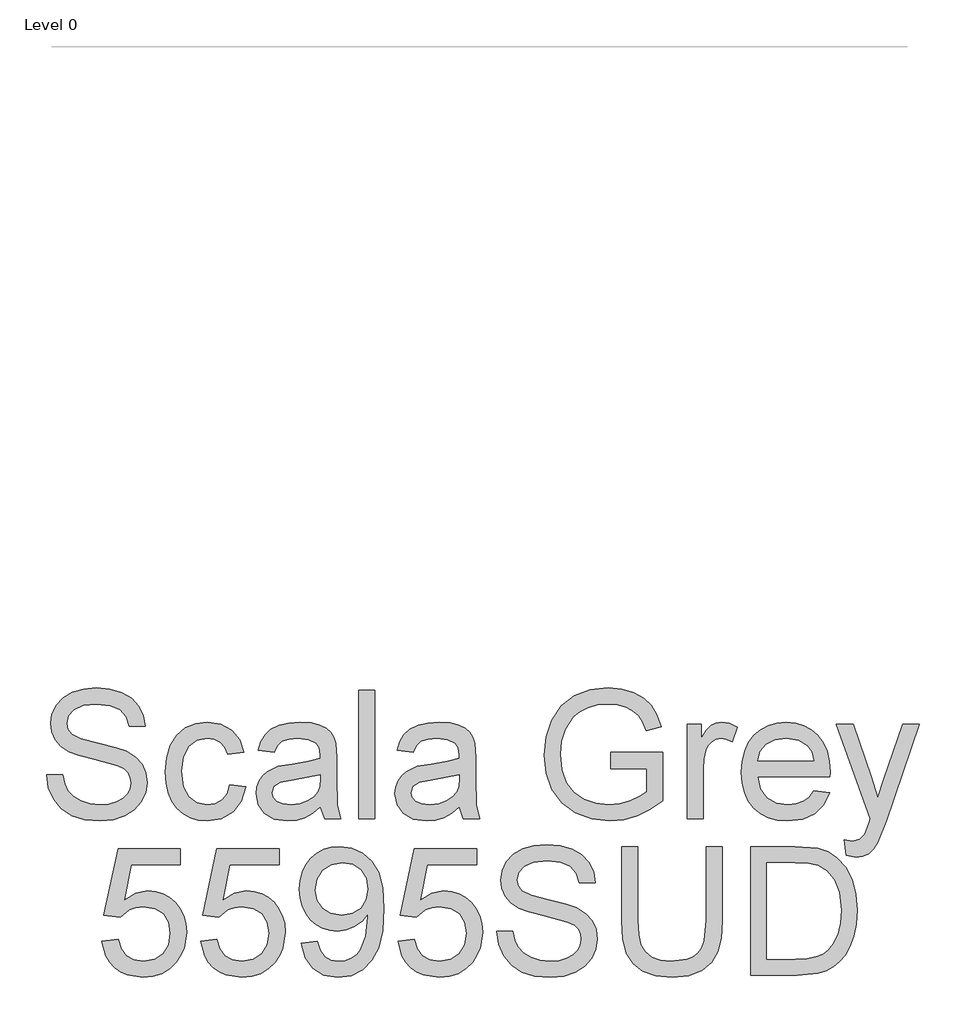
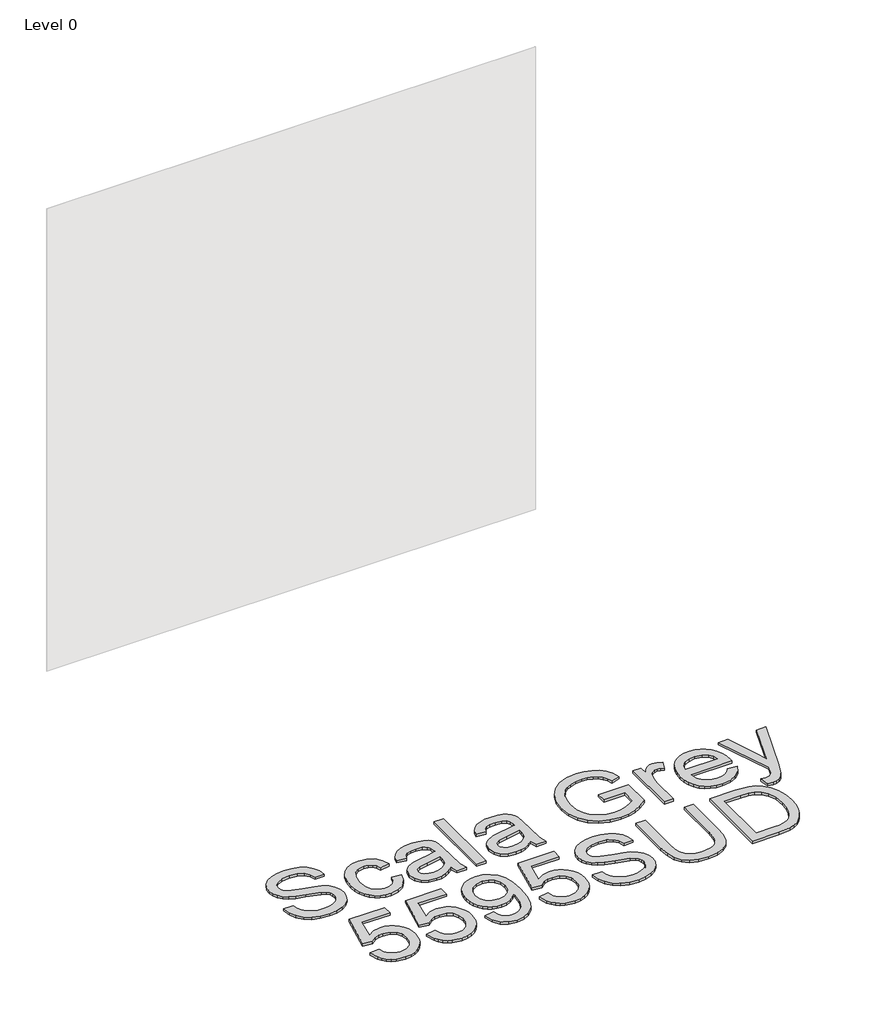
# One storey, part 15 of 29: 1 proxy.
"""IFC4 building model written with IfcOpenShell, lengths in millimetres."""

from ifc_helpers import new_model, si_unit, origin, origin_with_axes, place, context, project, spatial, polyline, outline, extrude, element, save

model = new_model("IFC4")

# Units and contexts
model_context = context("Model", 3, world=origin())
ifc_project = project(units=[si_unit("LENGTHUNIT", "METRE", prefix="MILLI")], contexts=[model_context])

# Site, building, storey
site = spatial("IfcSite", under=ifc_project)
building = spatial("IfcBuilding", under=site)
storey = spatial("IfcBuildingStorey", under=building, Name="Level 0", Elevation=0.0)

# Proxy
placement = place(None, origin())
element("IfcBuildingElementProxy", 1, Name="300mm Arial", ObjectType="300mm Arial", at=placement, inside=storey, context=model_context, shape_type="SweptSolid", body=[
    extrude(outline(polyline([(4636.930693, -16909.2649241), (4674.6018093, -16909.2649241), (4678.9244227, -16930.1698185), (4686.7419151, -16946.9728286), (4698.9372033, -16960.308551), (4716.3932039, -16970.8115819), (4737.7303596, -16977.6265959), (4761.5691129, -16979.8982672), (4782.5567808, -16978.1784189), (4800.9324864, -16973.0188739), (4815.8225102, -16964.8518936), (4826.3531323, -16954.1097394), (4832.6163233, -16941.7764955), (4834.7040536, -16928.8362463), (4833.1405551, -16916.2270909), (4828.4500597, -16905.3285868), (4818.921916, -16896.0303694), (4802.8454728, -16888.222074), (4747.9942673, -16873.837888), (4711.987817, -16864.3189414), (4688.9492071, -16855.2598472), (4670.1964224, -16842.5863125), (4656.9066853, -16827.2272392), (4648.9880254, -16809.5137211), (4646.348472, -16789.7768521), (4649.6134247, -16767.7131294), (4659.4082829, -16747.1393289), (4675.475529, -16729.7017223), (4697.5576458, -16717.0465817), (4724.0635435, -16709.3486509), (4753.4021326, -16706.782674), (4785.187137, -16709.4682126), (4812.9990159, -16717.5248283), (4835.8444878, -16730.7869742), (4852.7302713, -16749.0891034), (4863.4172433, -16771.2907818), (4867.6662803, -16796.2515752), (4829.995164, -16796.2515752), (4823.0789825, -16773.7739853), (4808.6580083, -16757.5503893), (4786.1252361, -16747.7279401), (4754.8736606, -16744.4537903), (4722.8863211, -16747.6911519), (4700.9421601, -16757.4032365), (4688.2502313, -16771.695452), (4684.0195883, -16788.6732061), (4687.0178266, -16803.1493626), (4696.0125414, -16814.7928278), (4717.2761207, -16825.2038882), (4757.522411, -16835.8356779), (4799.0562882, -16845.9340387), (4824.1826285, -16854.7448125), (4845.65774, -16868.4116286), (4860.6397342, -16885.2790181), (4869.441311, -16905.1630399), (4872.3751699, -16927.8797531), (4868.9998526, -16951.102304), (4858.8739007, -16972.9452975), (4842.4111814, -16991.7440675), (4820.025562, -17005.8339479), (4793.105797, -17014.6355246), (4763.0406409, -17017.5693835), (4726.1328797, -17014.4055984), (4695.755024, -17004.9142429), (4671.5575858, -16989.0585289), (4653.1910772, -16966.8016682), (4641.4004592, -16939.6887651), (4636.930693, -16909.2649241)])), origin_with_axes(), (0.0, 0.0, 1.0), 10.0),
    extrude(outline(polyline([(5065.4396409, -16932.8093718), (5103.1107573, -16937.5182614), (5092.6077263, -16971.0231141), (5072.8708573, -16996.3425924), (5045.7579542, -17012.2626857), (5013.1268212, -17017.5693835), (4991.9988984, -17015.7184772), (4973.0552749, -17010.1657584), (4956.2959508, -17000.9112269), (4941.720926, -16987.9548829), (4929.9234102, -16971.5404481), (4921.4966133, -16951.9116444), (4916.4405351, -16929.0684718), (4914.7551757, -16903.0109302), (4917.6338523, -16869.4876834), (4926.2698822, -16840.4342028), (4940.801221, -16816.9725286), (4961.3658245, -16800.2247008), (4985.9679329, -16790.1815223), (5012.6117864, -16786.8337961), (5044.4427761, -16791.4323211), (5069.8910131, -16805.2278959), (5088.1471571, -16827.4847566), (5098.4018677, -16857.4671392), (5060.7307514, -16862.1760288), (5053.8973433, -16845.7409006), (5043.2563566, -16833.9594797), (5029.3964025, -16826.8685543), (5012.906092, -16824.5049125), (4988.561501, -16829.1586197), (4969.2384992, -16843.1197414), (4956.6293438, -16867.1424357), (4952.426292, -16901.9808606), (4956.5373733, -16937.2883351), (4968.8706172, -16961.3938029), (4987.8441311, -16975.2721511), (5011.8760225, -16979.8982672), (5031.3829652, -16977.0103936), (5047.376635, -16968.3467726), (5059.0109031, -16953.6866751), (5065.4396409, -16932.8093718)])), origin_with_axes(), (0.0, 0.0, 1.0), 10.0),
    extrude(outline(polyline([(5277.3396702, -16984.6071568), (5259.3410436, -17000.0398064), (5240.808988, -17010.1381672), (5221.3204394, -17015.7115794), (5200.4523332, -17017.5693835), (5168.9708314, -17013.0996173), (5145.7482805, -16999.6903186), (5131.4284738, -16979.3280501), (5126.6552049, -16953.9993748), (5128.4578267, -16938.3827841), (5133.8656921, -16924.2009331), (5142.2074163, -16912.0608273), (5152.8116148, -16902.5694718), (5179.1887539, -16890.2086368), (5211.7830986, -16884.5432541), (5250.3003435, -16878.5835657), (5277.118941, -16871.5938078), (5277.3396702, -16863.2060983), (5274.7461021, -16846.3938912), (5266.9653979, -16835.3942195), (5249.5645795, -16827.2272392), (5225.3211561, -16824.5049125), (5202.8803543, -16826.3167313), (5187.2085814, -16831.7521878), (5176.5216094, -16841.8045633), (5169.0352108, -16857.4671392), (5131.3640945, -16852.7582497), (5137.9031969, -16832.156858), (5147.6612669, -16815.9700502), (5161.5488122, -16803.590821), (5180.4763408, -16794.4121652), (5203.6253154, -16788.7283884), (5230.1771984, -16786.8337961), (5255.6438295, -16788.5076592), (5275.831354, -16793.5292485), (5291.0524715, -16801.0800264), (5301.6198819, -16810.3414556), (5308.6280339, -16821.7917827), (5313.1713765, -16835.9092543), (5315.0107865, -16868.8714811), (5315.0107865, -16915.7396473), (5316.9237729, -16981.1858542), (5324.4285656, -17012.860494), (5286.7574492, -17012.860494), (5277.3396702, -16984.6071568)]), holes=[polyline([(5277.3396702, -16909.2649241), (5216.5655646, -16920.8164188), (5184.1551608, -16926.9232599), (5169.4766692, -16936.8560738), (5164.3263213, -16951.3506244), (5167.1314215, -16962.5526311), (5175.5467221, -16971.7312869), (5189.3882822, -16977.8565221), (5208.4721607, -16979.8982672), (5228.7056704, -16977.64499), (5246.5847354, -16970.8851583), (5261.079286, -16960.9247533), (5271.1592527, -16949.069756), (5275.6290189, -16936.8560738), (5277.118941, -16919.933502), (5277.3396702, -16909.2649241)])]), origin_with_axes(), (0.0, 0.0, 1.0), 10.0),
    extrude(outline(polyline([(5366.8085714, -17012.860494), (5366.8085714, -16711.4915635), (5404.4796877, -16711.4915635), (5404.4796877, -17012.860494), (5366.8085714, -17012.860494)])), origin_with_axes(), (0.0, 0.0, 1.0), 10.0),
    extrude(outline(polyline([(5602.2530483, -16984.6071568), (5584.2544217, -17000.0398064), (5565.7223662, -17010.1381672), (5546.2338175, -17015.7115794), (5525.3657113, -17017.5693835), (5493.8842096, -17013.0996173), (5470.6616586, -16999.6903186), (5456.341852, -16979.3280501), (5451.5685831, -16953.9993748), (5453.3712049, -16938.3827841), (5458.7790702, -16924.2009331), (5467.1207944, -16912.0608273), (5477.7249929, -16902.5694718), (5504.102132, -16890.2086368), (5536.6964768, -16884.5432541), (5575.2137217, -16878.5835657), (5602.0323191, -16871.5938078), (5602.2530483, -16863.2060983), (5599.6594802, -16846.3938912), (5591.878776, -16835.3942195), (5574.4779577, -16827.2272392), (5550.2345342, -16824.5049125), (5527.7937325, -16826.3167313), (5512.1219595, -16831.7521878), (5501.4349875, -16841.8045633), (5493.9485889, -16857.4671392), (5456.2774726, -16852.7582497), (5462.8165751, -16832.156858), (5472.574645, -16815.9700502), (5486.4621903, -16803.590821), (5505.389719, -16794.4121652), (5528.5386935, -16788.7283884), (5555.0905765, -16786.8337961), (5580.5572076, -16788.5076592), (5600.7447321, -16793.5292485), (5615.9658497, -16801.0800264), (5626.53326, -16810.3414556), (5633.541412, -16821.7917827), (5638.0847546, -16835.9092543), (5639.9241646, -16868.8714811), (5639.9241646, -16915.7396473), (5641.837151, -16981.1858542), (5649.3419437, -17012.860494), (5611.6708274, -17012.860494), (5602.2530483, -16984.6071568)]), holes=[polyline([(5602.2530483, -16909.2649241), (5541.4789427, -16920.8164188), (5509.0685389, -16926.9232599), (5494.3900473, -16936.8560738), (5489.2396994, -16951.3506244), (5492.0447996, -16962.5526311), (5500.4601002, -16971.7312869), (5514.3016603, -16977.8565221), (5533.3855388, -16979.8982672), (5553.6190485, -16977.64499), (5571.4981135, -16970.8851583), (5585.9926641, -16960.9247533), (5596.0726308, -16949.069756), (5600.542397, -16936.8560738), (5602.0323191, -16919.933502), (5602.2530483, -16909.2649241)])]), origin_with_axes(), (0.0, 0.0, 1.0), 10.0),
    extrude(outline(polyline([(5955.4197637, -16895.1382555), (5955.4197637, -16857.4671392), (6077.8508917, -16857.4671392), (6077.8508917, -16970.1126061), (6048.0984353, -16990.8059684), (6017.4078799, -17005.6500069), (5985.8528017, -17014.5895394), (5953.5067773, -17017.5693835), (5911.2463331, -17012.8329028), (5873.050985, -16998.6234608), (5841.3211629, -16975.437698), (5818.4572969, -16943.7722553), (5804.6341309, -16905.7884393), (5800.0264089, -16863.6475567), (5804.6157368, -16821.2031715), (5818.3837205, -16781.7202364), (5840.7601428, -16748.6016598), (5871.1747868, -16725.2503502), (5908.2205037, -16711.399593), (5950.4901449, -16706.782674), (5981.5209912, -16709.4590155), (6009.4248406, -16717.4880401), (6032.923303, -16730.2903335), (6050.7379886, -16747.2864817), (6063.9173611, -16769.295022), (6073.5098841, -16797.134492), (6038.7818238, -16806.9201531), (6031.0287107, -16787.0637224), (6021.6017346, -16772.0817281), (6009.130535, -16760.7877509), (5992.2447514, -16751.9953712), (5972.1124092, -16746.3391855), (5949.9015338, -16744.4537903), (5923.9014737, -16746.4863383), (5901.6722042, -16752.5839824), (5883.2964985, -16761.9833674), (5868.8571302, -16773.9211381), (5849.4697491, -16802.9470275), (5840.6405812, -16831.3843058), (5837.6975252, -16862.1024524), (5841.2383894, -16898.1272967), (5851.860982, -16927.7693885), (5869.2434063, -16950.8171955), (5893.0637655, -16967.0591856), (5920.9400237, -16976.6884968), (5950.4901449, -16979.8982672), (5976.5821755, -16977.4794431), (6002.0304125, -16970.2229707), (6024.1309233, -16960.2257775), (6040.1797754, -16949.5847908), (6040.1797754, -16895.1382555), (5955.4197637, -16895.1382555)])), origin_with_axes(), (0.0, 0.0, 1.0), 10.0),
    extrude(outline(polyline([(6134.3575661, -17012.860494), (6134.3575661, -16791.5426857), (6167.3197929, -16791.5426857), (6167.3197929, -16824.2841833), (6179.4966869, -16805.3014723), (6190.7170878, -16794.1178596), (6201.9742768, -16788.654812), (6214.2615355, -16786.8337961), (6233.0235172, -16789.7400639), (6252.0798046, -16798.4588672), (6239.4982404, -16832.2304343), (6226.2544885, -16826.4362929), (6213.0107367, -16824.5049125), (6201.7627447, -16826.3627165), (6191.7103692, -16831.9361288), (6183.5893741, -16840.8020848), (6178.1355236, -16852.5375205), (6173.5553927, -16873.5803706), (6172.0286824, -16896.5362071), (6172.0286824, -17012.860494), (6134.3575661, -17012.860494)])), origin_with_axes(), (0.0, 0.0, 1.0), 10.0),
    extrude(outline(polyline([(6430.5761487, -16946.9360404), (6467.511501, -16951.64493), (6454.2033698, -16979.4752029), (6432.9673816, -17000.2789297), (6404.281783, -17013.2467701), (6368.6248207, -17017.5693835), (6345.2505184, -17015.7046817), (6324.4237989, -17010.1105761), (6306.1446623, -17000.7870668), (6290.4131085, -16987.7341537), (6277.7625664, -16971.3151204), (6268.7264649, -16951.8932503), (6263.304804, -16929.4685435), (6261.4975837, -16904.0409998), (6263.3231981, -16877.7512327), (6268.8000413, -16854.5792656), (6277.9281133, -16834.5250983), (6290.7074141, -16817.5887309), (6306.3975812, -16804.133447), (6324.258252, -16794.5225298), (6344.2894267, -16788.7559796), (6366.4911051, -16786.8337961), (6387.9777129, -16788.751381), (6407.40878, -16794.5041357), (6424.7843065, -16804.0920602), (6440.1042923, -16817.5151545), (6452.6099809, -16834.4147337), (6461.5426156, -16854.4321128), (6466.9021964, -16877.5672917), (6468.6887234, -16903.8202706), (6468.4679942, -16913.9738137), (6299.1687, -16913.9738137), (6305.6894083, -16942.1719686), (6320.8369495, -16962.902119), (6342.6983371, -16975.6492302), (6369.3605847, -16979.8982672), (6389.4101534, -16977.9300985), (6406.295937, -16972.0255925), (6420.0179354, -16961.8168672), (6430.5761487, -16946.9360404)]), holes=[polyline([(6299.1687, -16876.3026974), (6431.017607, -16876.3026974), (6425.9224414, -16856.4002814), (6415.9344452, -16842.1632482), (6393.9718901, -16828.9194964), (6366.3439523, -16824.5049125), (6340.9508976, -16828.0273826), (6319.9540327, -16838.5947929), (6305.3583145, -16855.0667092), (6299.1687, -16876.3026974)])]), origin_with_axes(), (0.0, 0.0, 1.0), 10.0),
    extrude(outline(polyline([(6506.3598397, -17097.6205057), (6501.6509501, -17061.3473409), (6520.7808139, -17064.6582789), (6538.6598788, -17060.5012124), (6549.6227623, -17048.9129295), (6559.9234582, -17021.1746271), (6562.8665141, -17012.0511536), (6482.815392, -16791.5426857), (6522.5466474, -16791.5426857), (6565.0002297, -16914.4152721), (6579.7890859, -16963.5643066), (6594.5779421, -16920.1542312), (6638.2087467, -16791.5426857), (6677.6456966, -16791.5426857), (6600.6112068, -17018.1579947), (6580.5984263, -17067.3070293), (6570.3529127, -17082.9971964), (6558.7462358, -17093.8681093), (6545.2633606, -17100.2140737), (6529.3892526, -17102.3293952), (6506.3598397, -17097.6205057)])), origin_with_axes(), (0.0, 0.0, 1.0), 10.0),
    extrude(outline(polyline([(4766.4251553, -17298.7338254), (4804.0962716, -17294.0249358), (4811.0124531, -17316.6404815), (4823.0789825, -17332.8364863), (4840.2406776, -17342.5761621), (4862.442356, -17345.8227207), (4889.4448945, -17341.3069693), (4909.6784042, -17327.7597148), (4922.3151507, -17306.7444558), (4926.5273996, -17279.8246908), (4922.5818652, -17254.4776213), (4910.745262, -17235.0902402), (4890.9256195, -17222.7845875), (4863.0309672, -17218.6827032), (4844.7564291, -17220.3197781), (4829.9583758, -17225.2310027), (4808.8051611, -17242.2271509), (4771.1340448, -17237.5182614), (4804.0962716, -17082.1249066), (4950.0718473, -17082.1249066), (4950.0718473, -17119.7960229), (4834.5569008, -17119.7960229), (4818.4436694, -17202.790201), (4845.3542373, -17186.4562404), (4873.5523923, -17181.0115869), (4891.8982075, -17182.6992456), (4908.7495022, -17187.7622215), (4924.1062762, -17196.2005148), (4937.9685296, -17208.0141254), (4949.4441486, -17222.4810848), (4957.6410193, -17238.8794248), (4962.5591417, -17257.2091452), (4964.1985159, -17277.470246), (4958.2940099, -17315.1413624), (4950.9133773, -17331.9351754), (4940.5804918, -17347.3678251), (4924.9271129, -17363.1729553), (4906.6617718, -17374.4623341), (4885.7844686, -17381.2359613), (4862.2952032, -17383.4938371), (4825.2954715, -17377.6904986), (4809.6168008, -17370.4363255), (4795.8189267, -17360.2804832), (4784.3387092, -17347.7288093), (4775.6130081, -17333.2871418), (4766.4251553, -17298.7338254)])), origin_with_axes(), (0.0, 0.0, 1.0), 10.0),
    extrude(outline(polyline([(4997.1607426, -17298.7338254), (5034.8318589, -17294.0249358), (5041.7480405, -17316.6404815), (5053.8145699, -17332.8364863), (5070.976265, -17342.5761621), (5093.1779434, -17345.8227207), (5120.1804818, -17341.3069693), (5140.4139916, -17327.7597148), (5153.0507381, -17306.7444558), (5157.2629869, -17279.8246908), (5153.3174525, -17254.4776213), (5141.4808494, -17235.0902402), (5121.6612069, -17222.7845875), (5093.7665546, -17218.6827032), (5075.4920165, -17220.3197781), (5060.6939632, -17225.2310027), (5039.5407485, -17242.2271509), (5001.8696322, -17237.5182614), (5034.8318589, -17082.1249066), (5180.8074346, -17082.1249066), (5180.8074346, -17119.7960229), (5065.2924881, -17119.7960229), (5049.1792568, -17202.790201), (5076.0898247, -17186.4562404), (5104.2879796, -17181.0115869), (5122.6337949, -17182.6992456), (5139.4850895, -17187.7622215), (5154.8418636, -17196.2005148), (5168.704117, -17208.0141254), (5180.179736, -17222.4810848), (5188.3766067, -17238.8794248), (5193.2947291, -17257.2091452), (5194.9341033, -17277.470246), (5189.0295972, -17315.1413624), (5181.6489647, -17331.9351754), (5171.3160792, -17347.3678251), (5155.6627003, -17363.1729553), (5137.3973592, -17374.4623341), (5116.520056, -17381.2359613), (5093.0307906, -17383.4938371), (5056.0310589, -17377.6904986), (5040.3523881, -17370.4363255), (5026.5545141, -17360.2804832), (5015.0742965, -17347.7288093), (5006.3485955, -17333.2871418), (4997.1607426, -17298.7338254)])), origin_with_axes(), (0.0, 0.0, 1.0), 10.0),
    extrude(outline(polyline([(5232.6052196, -17303.4427149), (5270.2763359, -17298.7338254), (5276.7142708, -17320.1169663), (5287.1989076, -17334.6758963), (5301.4727291, -17343.0360146), (5319.2782176, -17345.8227207), (5335.2534933, -17344.029296), (5349.775635, -17338.6490218), (5361.8421645, -17330.2705094), (5370.4506031, -17319.4823699), (5382.77465, -17286.7408723), (5388.2193035, -17243.0364913), (5387.9985743, -17235.6788514), (5374.9479605, -17251.6081418), (5357.8690389, -17264.2264942), (5337.9942141, -17272.4486568), (5316.5558909, -17275.1893777), (5298.6607311, -17273.5155146), (5282.2049096, -17268.4939254), (5267.1884264, -17260.12461), (5253.6112815, -17248.4075684), (5242.3609902, -17233.9544045), (5234.3250679, -17217.3767221), (5229.5035145, -17198.6745212), (5227.89633, -17177.8478018), (5229.5816894, -17156.326705), (5234.6377676, -17137.0129003), (5243.0645645, -17119.9063875), (5254.8620803, -17105.0071667), (5269.1979818, -17092.9360387), (5285.239936, -17084.3138045), (5302.987943, -17079.1404639), (5322.4420028, -17077.4160171), (5350.5389902, -17081.3523544), (5376.1159859, -17093.1613665), (5397.5083239, -17112.254442), (5413.0513382, -17138.0429699), (5422.5151025, -17173.6907352), (5425.6696906, -17222.3615232), (5422.5242996, -17273.96617), (5413.0881264, -17313.8537754), (5397.4439445, -17343.8269609), (5375.6745275, -17365.6883485), (5348.7179743, -17379.0424649), (5317.512384, -17383.4938371), (5285.3043154, -17378.2423216), (5259.607758, -17362.4877751), (5241.6367225, -17337.2234791), (5232.6052196, -17303.4427149)]), holes=[polyline([(5387.9985743, -17176.964885), (5383.9334783, -17151.4338745), (5371.7381901, -17131.788976), (5352.8106615, -17119.262594), (5328.5488439, -17115.0871334), (5303.3857154, -17119.5844908), (5283.2257821, -17133.0765629), (5269.9820303, -17153.7239399), (5265.5674463, -17179.6872117), (5269.742907, -17202.964945), (5282.2692889, -17221.4418182), (5301.9325815, -17233.4991506), (5327.5187743, -17237.5182614), (5351.5874538, -17233.4991506), (5370.9656379, -17221.4418182), (5383.7403402, -17202.2843633), (5387.9985743, -17176.964885)])]), origin_with_axes(), (0.0, 0.0, 1.0), 10.0),
    extrude(outline(polyline([(5458.6319174, -17298.7338254), (5496.3030337, -17294.0249358), (5503.2192152, -17316.6404815), (5515.2857447, -17332.8364863), (5532.4474397, -17342.5761621), (5554.6491181, -17345.8227207), (5581.6516566, -17341.3069693), (5601.8851663, -17327.7597148), (5614.5219128, -17306.7444558), (5618.7341617, -17279.8246908), (5614.7886273, -17254.4776213), (5602.9520241, -17235.0902402), (5583.1323816, -17222.7845875), (5555.2377293, -17218.6827032), (5536.9631912, -17220.3197781), (5522.165138, -17225.2310027), (5501.0119232, -17242.2271509), (5463.3408069, -17237.5182614), (5496.3030337, -17082.1249066), (5642.2786094, -17082.1249066), (5642.2786094, -17119.7960229), (5526.7636629, -17119.7960229), (5510.6504315, -17202.790201), (5537.5609995, -17186.4562404), (5565.7591544, -17181.0115869), (5584.1049696, -17182.6992456), (5600.9562643, -17187.7622215), (5616.3130383, -17196.2005148), (5630.1752917, -17208.0141254), (5641.6509107, -17222.4810848), (5649.8477814, -17238.8794248), (5654.7659039, -17257.2091452), (5656.405278, -17277.470246), (5650.500772, -17315.1413624), (5643.1201394, -17331.9351754), (5632.7872539, -17347.3678251), (5617.133875, -17363.1729553), (5598.868534, -17374.4623341), (5577.9912307, -17381.2359613), (5554.5019653, -17383.4938371), (5517.5022337, -17377.6904986), (5501.8235629, -17370.4363255), (5488.0256888, -17360.2804832), (5476.5454713, -17347.7288093), (5467.8197702, -17333.2871418), (5458.6319174, -17298.7338254)])), origin_with_axes(), (0.0, 0.0, 1.0), 10.0),
    extrude(outline(polyline([(5689.3675048, -17275.1893777), (5727.0386211, -17275.1893777), (5731.3612345, -17296.0942721), (5739.1787269, -17312.8972822), (5751.3740151, -17326.2330045), (5768.8300157, -17336.7360355), (5790.1671714, -17343.5510494), (5814.0059247, -17345.8227207), (5834.9935926, -17344.1028724), (5853.3692982, -17338.9433274), (5868.259322, -17330.7763471), (5878.7899441, -17320.0341929), (5885.0531351, -17307.700949), (5887.1408654, -17294.7606998), (5885.5773669, -17282.1515444), (5880.8868715, -17271.2530403), (5871.3587278, -17261.9548229), (5855.2822846, -17254.1465276), (5800.4310791, -17239.7623415), (5764.4246288, -17230.2433949), (5741.3860189, -17221.1843008), (5722.6332342, -17208.510766), (5709.3434971, -17193.1516928), (5701.4248372, -17175.4381747), (5698.7852838, -17155.7013056), (5702.0502366, -17133.637583), (5711.8450947, -17113.0637824), (5727.9123408, -17095.6261758), (5749.9944576, -17082.9710352), (5776.5003553, -17075.2731044), (5805.8389444, -17072.7071275), (5837.6239488, -17075.3926661), (5865.4358277, -17083.4492818), (5888.2812996, -17096.7114277), (5905.1670831, -17115.013557), (5915.8540551, -17137.2152354), (5920.1030921, -17162.1760288), (5882.4319758, -17162.1760288), (5875.5157943, -17139.6984389), (5861.0948201, -17123.4748429), (5838.5620479, -17113.6523936), (5807.3104724, -17110.3782438), (5775.3231329, -17113.6156054), (5753.3789719, -17123.3276901), (5740.6870431, -17137.6199056), (5736.4564002, -17154.5976597), (5739.4546384, -17169.0738162), (5748.4493532, -17180.7172813), (5769.7129325, -17191.1283418), (5809.9592228, -17201.7601314), (5851.4931, -17211.8584922), (5876.6194403, -17220.669266), (5898.0945518, -17234.3360821), (5913.076546, -17251.2034716), (5921.8781228, -17271.0874934), (5924.8119817, -17293.8042066), (5921.4366644, -17317.0267576), (5911.3107125, -17338.869751), (5894.8479932, -17357.668521), (5872.4623738, -17371.7584014), (5845.5426088, -17380.5599781), (5815.4774527, -17383.4938371), (5778.5696915, -17380.3300519), (5748.1918358, -17370.8386964), (5723.9943976, -17354.9829824), (5705.627889, -17332.7261217), (5693.837271, -17305.6132187), (5689.3675048, -17275.1893777)])), origin_with_axes(), (0.0, 0.0, 1.0), 10.0),
    extrude(outline(polyline([(6179.0920167, -17077.4160171), (6216.7631331, -17077.4160171), (6216.7631331, -17251.277048), (6214.2063532, -17291.9923878), (6206.5360136, -17323.3451308), (6192.2070099, -17347.533372), (6169.6742377, -17366.7552063), (6138.8825147, -17379.3091794), (6099.7766586, -17383.4938371), (6061.5261281, -17379.8518053), (6030.9459373, -17368.92571), (6008.026889, -17351.0926303), (5992.7597862, -17326.7296452), (5984.1789387, -17294.052527), (5981.3186561, -17251.277048), (5981.3186561, -17077.4160171), (6018.9897724, -17077.4160171), (6018.9897724, -17249.9526728), (6020.8475765, -17283.8070134), (6026.4209887, -17307.3790523), (6036.5193495, -17323.7038158), (6051.9519992, -17335.8163305), (6072.0751444, -17343.3211232), (6096.2449914, -17345.8227207), (6134.5599012, -17340.8747079), (6148.9027005, -17334.6896919), (6160.0357294, -17326.0306694), (6168.3728551, -17313.8537754), (6174.3279449, -17297.1151446), (6179.0920167, -17249.9526728), (6179.0920167, -17077.4160171)])), origin_with_axes(), (0.0, 0.0, 1.0), 10.0),
    extrude(outline(polyline([(6282.6875866, -17378.7849475), (6282.6875866, -17077.4160171), (6386.6510384, -17077.4160171), (6440.4353861, -17081.7570246), (6464.4580804, -17090.12634), (6484.7283783, -17103.3149095), (6505.5688934, -17126.270746), (6520.4129319, -17154.8183889), (6529.2972821, -17188.406015), (6532.2587321, -17226.4818015), (6530.2537752, -17258.8278259), (6524.2389046, -17287.2926953), (6515.0786429, -17311.5269217), (6503.6375129, -17331.1810173), (6490.4673375, -17346.6964405), (6476.1199397, -17358.5146496), (6459.6480233, -17367.2794381), (6440.1042923, -17373.6345996), (6391.6542336, -17378.7849475), (6282.6875866, -17378.7849475)]), holes=[polyline([(6320.3587029, -17341.1138312), (6387.0189204, -17341.1138312), (6414.591676, -17339.7526678), (6435.5057674, -17335.6691777), (6451.287905, -17329.1024841), (6463.464799, -17320.2917103), (6476.552201, -17303.9853408), (6486.3838473, -17282.8781114), (6492.5366737, -17256.8780514), (6494.5876158, -17225.8931903), (6490.568505, -17184.8375597), (6478.5111726, -17154.5240833), (6460.696487, -17133.7019623), (6439.4053165, -17121.1203981), (6417.737067, -17116.5954496), (6385.9888508, -17115.0871334), (6320.3587029, -17115.0871334), (6320.3587029, -17341.1138312)])]), origin_with_axes(), (0.0, 0.0, 1.0), 10.0),
])

save(model, "model.ifc")
